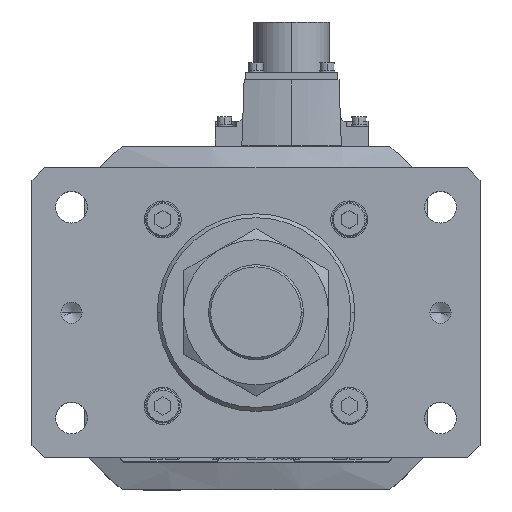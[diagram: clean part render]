
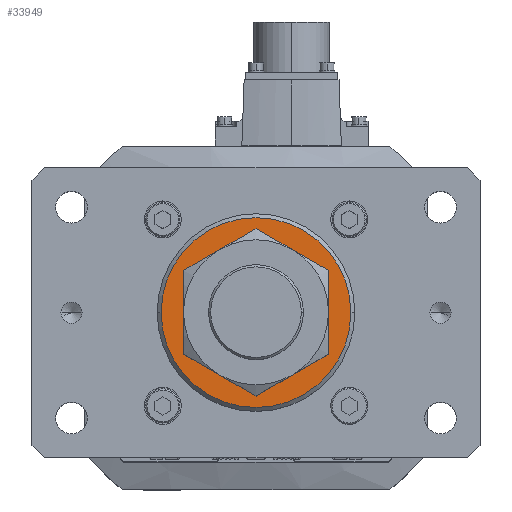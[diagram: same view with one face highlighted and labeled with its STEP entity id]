
A CAD part, top view. The second image highlights one B-rep face of the part: STEP entity #33949.
In plain terms, the highlighted planar face has unit normal (0, 0, 1).
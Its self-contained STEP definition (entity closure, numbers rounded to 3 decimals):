
#661 = DIRECTION ( 'NONE',  ( 1., 0., 0. ) ) ;
#853 = ORIENTED_EDGE ( 'NONE', *, *, #18737, .T. ) ;
#2709 = DIRECTION ( 'NONE',  ( 0., 0., 1. ) ) ;
#3512 = DIRECTION ( 'NONE',  ( 1., 0., 0. ) ) ;
#3524 = CIRCLE ( 'NONE', #21397, 23. ) ;
#3939 = CARTESIAN_POINT ( 'NONE',  ( 0., 0., 946. ) ) ;
#4179 = CARTESIAN_POINT ( 'NONE',  ( 36., 0., 946. ) ) ;
#4733 = CIRCLE ( 'NONE', #26491, 23. ) ;
#5304 = DIRECTION ( 'NONE',  ( 0., 0., 1. ) ) ;
#6506 = DIRECTION ( 'NONE',  ( 0., 0., -1. ) ) ;
#8306 = AXIS2_PLACEMENT_3D ( 'NONE', #12037, #26244, #3512 ) ;
#12037 = CARTESIAN_POINT ( 'NONE',  ( 0., 0., 946. ) ) ;
#12237 = VERTEX_POINT ( 'NONE', #4179 ) ;
#13148 = ORIENTED_EDGE ( 'NONE', *, *, #20091, .T. ) ;
#14089 = DIRECTION ( 'NONE',  ( 1., 0., 0. ) ) ;
#15275 = CARTESIAN_POINT ( 'NONE',  ( 23., 0., 946. ) ) ;
#16573 = DIRECTION ( 'NONE',  ( 1., 0., 0. ) ) ;
#17407 = FACE_OUTER_BOUND ( 'NONE', #32796, .T. ) ;
#17837 = EDGE_CURVE ( 'NONE', #27535, #33610, #3524, .T. ) ;
#18092 = CARTESIAN_POINT ( 'NONE',  ( -36., 0., 946. ) ) ;
#18265 = DIRECTION ( 'NONE',  ( 1., 0., 0. ) ) ;
#18737 = EDGE_CURVE ( 'NONE', #32613, #12237, #28473, .T. ) ;
#19352 = PLANE ( 'NONE',  #36726 ) ;
#20091 = EDGE_CURVE ( 'NONE', #33610, #27535, #4733, .T. ) ;
#20496 = EDGE_CURVE ( 'NONE', #12237, #32613, #29625, .T. ) ;
#21397 = AXIS2_PLACEMENT_3D ( 'NONE', #26867, #6506, #18265 ) ;
#24036 = DIRECTION ( 'NONE',  ( 0., 0., -1. ) ) ;
#25190 = CARTESIAN_POINT ( 'NONE',  ( 0., 0., 946. ) ) ;
#25462 = EDGE_LOOP ( 'NONE', ( #13148, #35800 ) ) ;
#26244 = DIRECTION ( 'NONE',  ( 0., 0., 1. ) ) ;
#26491 = AXIS2_PLACEMENT_3D ( 'NONE', #3939, #24036, #661 ) ;
#26867 = CARTESIAN_POINT ( 'NONE',  ( 0., 0., 946. ) ) ;
#27535 = VERTEX_POINT ( 'NONE', #32013 ) ;
#28473 = CIRCLE ( 'NONE', #32707, 36. ) ;
#29625 = CIRCLE ( 'NONE', #8306, 36. ) ;
#32013 = CARTESIAN_POINT ( 'NONE',  ( -23., 0., 946. ) ) ;
#32613 = VERTEX_POINT ( 'NONE', #18092 ) ;
#32707 = AXIS2_PLACEMENT_3D ( 'NONE', #25190, #5304, #16573 ) ;
#32796 = EDGE_LOOP ( 'NONE', ( #853, #36677 ) ) ;
#33610 = VERTEX_POINT ( 'NONE', #15275 ) ;
#33712 = CARTESIAN_POINT ( 'NONE',  ( 0., 0., 946. ) ) ;
#33949 = ADVANCED_FACE ( 'NONE', ( #34853, #17407 ), #19352, .T. ) ;
#34853 = FACE_BOUND ( 'NONE', #25462, .T. ) ;
#35800 = ORIENTED_EDGE ( 'NONE', *, *, #17837, .T. ) ;
#36677 = ORIENTED_EDGE ( 'NONE', *, *, #20496, .T. ) ;
#36726 = AXIS2_PLACEMENT_3D ( 'NONE', #33712, #2709, #14089 ) ;
